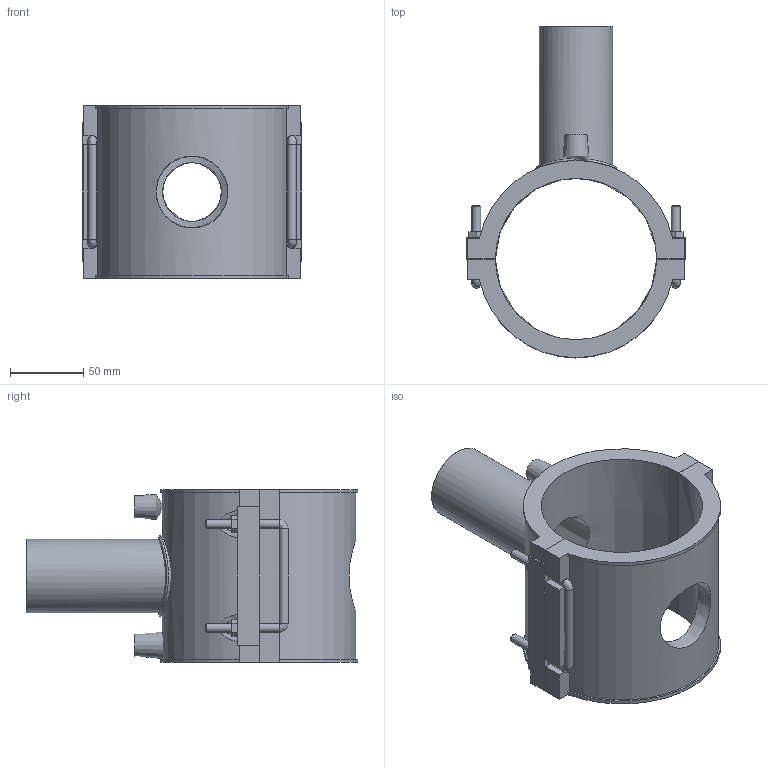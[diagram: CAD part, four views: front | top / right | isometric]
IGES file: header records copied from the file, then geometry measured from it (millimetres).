
Global section: file name: 495804110050.ipt; native system: Autodesk Inventor 2015; preprocessor: unknown; author: KIM; date: 20180426.120836; units: millimetre
Bounding box: 150 x 226.32 x 118 mm (x, y, z)
Volume: 599276.8 mm3; surface area: 146800.6 mm2
Topology: 2 solids, 2 shells, 133 faces, 340 edges, 214 vertices
Faces by surface type: plane 85, cylinder 22, revolution 10, bspline 9, cone 7
Full cylindrical faces by diameter (mm): 4 x2, 6 x10, 50 x1, 55 x1
